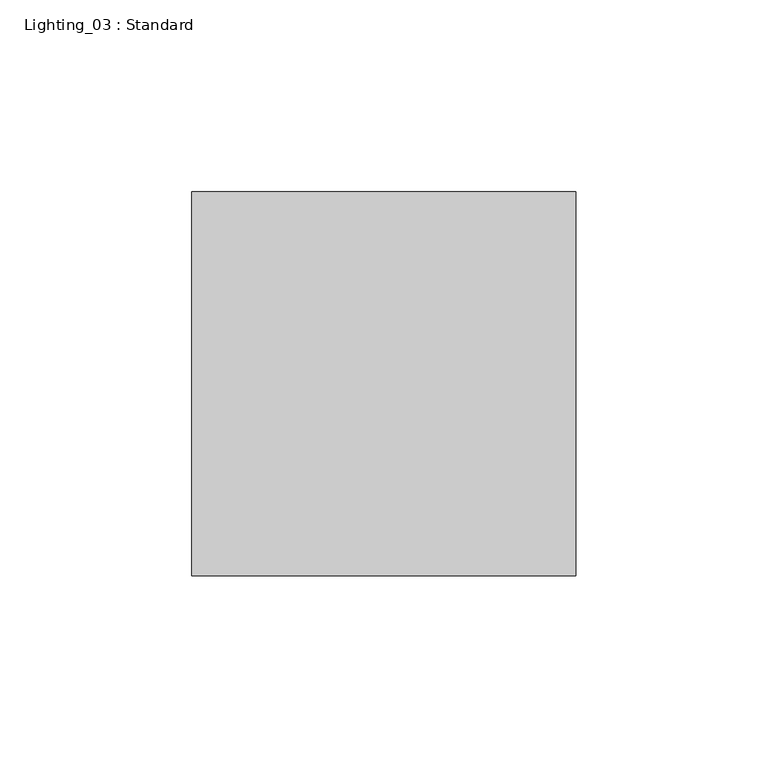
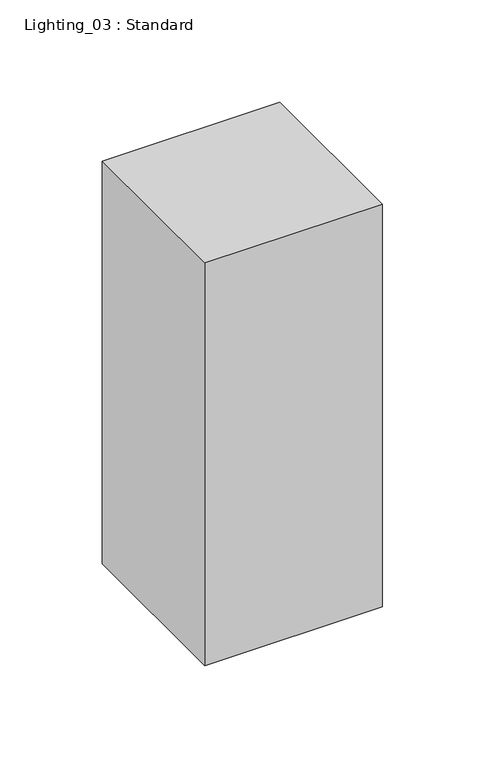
"""IFC4 building model written with IfcOpenShell, lengths in millimetres: light fixture geometry, Lighting_03 : Standard."""

from ifc_helpers import new_model, si_unit, origin, origin_with_axes, place, context, project, spatial, polyline, outline, extrude, source, transform, mapped, element, save


def lighting_03_standard_27dd422e(model_context):
    return source(origin(), model_context, "Body", "SweptSolid", [
        extrude(outline(polyline([(50.0, 50.0), (50.0, -50.0), (-50.0, -50.0), (-50.0, 50.0), (50.0, 50.0)])), origin_with_axes(), (0.0, 0.0, 1.0), 240.0),
    ])


if __name__ == "__main__":
    model = new_model("IFC4")
    model_context = context("Model", 3, world=origin())
    ifc_project = project(units=[si_unit("LENGTHUNIT", "METRE", prefix="MILLI")], contexts=[model_context])
    site = spatial("IfcSite", under=ifc_project)
    building = spatial("IfcBuilding", under=site)
    placement = place(None, origin())
    lighting_03_standard_shape = lighting_03_standard_27dd422e(model_context)
    element("IfcLightFixture", 1, ObjectType="Lighting_03 : Standard", at=placement, inside=building, context=model_context, shape_type="MappedRepresentation", body=[
        mapped(lighting_03_standard_shape, transform((0.0, 0.0, 0.0), x_axis=(1.0, 0.0, 0.0), y_axis=(0.0, 1.0, 0.0), z_axis=(0.0, 0.0, 1.0))),
    ])
    save(model, "model.ifc")
